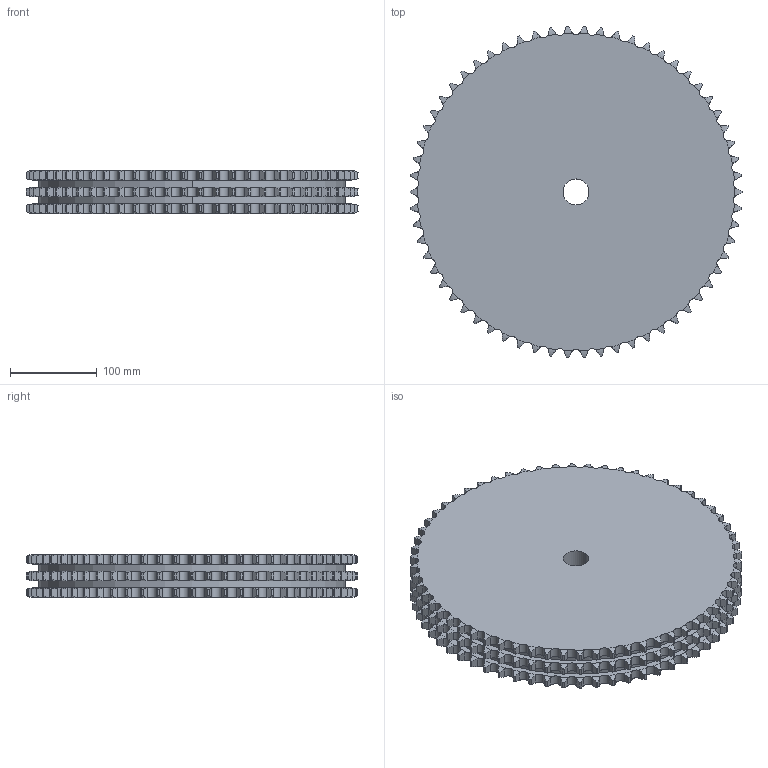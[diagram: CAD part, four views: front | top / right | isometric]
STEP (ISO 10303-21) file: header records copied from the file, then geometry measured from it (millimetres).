
FILE_DESCRIPTION((''),'2;1');
FILE_NAME('500-403-0062_PRT','2021-02-12T',('Brieden'),('Brieden'),'PRO/ENGINEER BY PARAMETRIC TECHNOLOGY CORPORATION, 2010160','PRO/ENGINEER BY PARAMETRIC TECHNOLOGY CORPORATION, 2010160','');
FILE_SCHEMA(('AUTOMOTIVE_DESIGN { 1 0 10303 214 1 1 1 1 }'));
Length unit declared in the file: millimetre
Products named in the file (1): 500-403-0062_PRT
Bounding box: 383.59 x 383.2 x 49.8 mm (x, y, z)
Volume: 5190135 mm3; surface area: 333765.2 mm2
Topology: 1 solids, 1 shells, 1128 faces, 3366 edges, 2244 vertices
Faces by surface type: cylinder 750, torus 372, plane 6
Entity records: 55774 total; most frequent: CARTESIAN_POINT 17101, ORIENTED_EDGE 6732, DIRECTION 5262, PRESENTATION_STYLE_ASSIGNMENT 3367, STYLED_ITEM 3367, CURVE_STYLE 3366, EDGE_CURVE 3366, AXIS2_PLACEMENT_3D 2256
